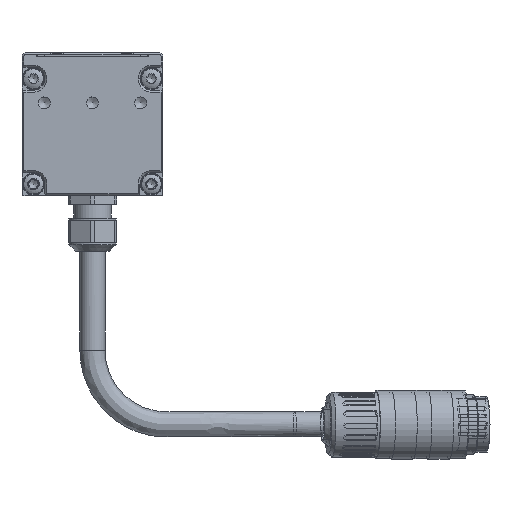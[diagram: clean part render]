
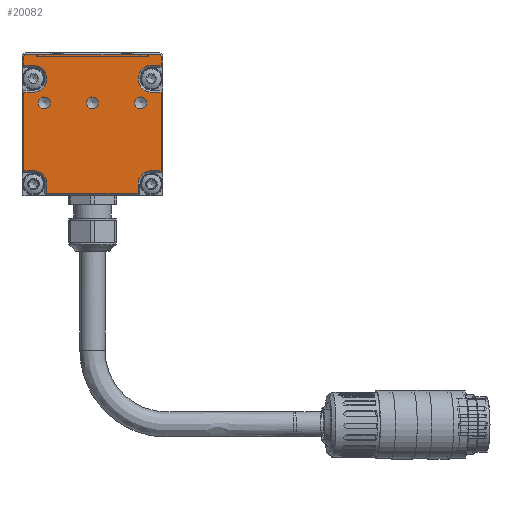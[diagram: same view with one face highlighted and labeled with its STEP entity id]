
A CAD part, left-side view. The second image highlights one B-rep face of the part: STEP entity #20082.
In plain terms, the highlighted planar face has unit normal (-1, 0, 0).
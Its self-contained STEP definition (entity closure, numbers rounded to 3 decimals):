
#880=LINE('',#27913,#1882);
#882=LINE('',#27917,#1884);
#886=LINE('',#27925,#1888);
#889=LINE('',#27931,#1891);
#891=LINE('',#27936,#1893);
#895=LINE('',#27944,#1897);
#897=LINE('',#27948,#1899);
#901=LINE('',#27957,#1903);
#903=LINE('',#27962,#1905);
#906=LINE('',#27970,#1908);
#909=LINE('',#27976,#1911);
#912=LINE('',#27984,#1914);
#916=LINE('',#27992,#1918);
#919=LINE('',#27999,#1921);
#1882=VECTOR('',#23214,1000.);
#1884=VECTOR('',#23218,1000.);
#1888=VECTOR('',#23224,1000.);
#1891=VECTOR('',#23229,1000.);
#1893=VECTOR('',#23235,1000.);
#1897=VECTOR('',#23241,1000.);
#1899=VECTOR('',#23247,1000.);
#1903=VECTOR('',#23257,1000.);
#1905=VECTOR('',#23265,1000.);
#1908=VECTOR('',#23274,1000.);
#1911=VECTOR('',#23283,1000.);
#1914=VECTOR('',#23292,1000.);
#1918=VECTOR('',#23302,1000.);
#1921=VECTOR('',#23311,1000.);
#2682=PLANE('',#21147);
#3923=ORIENTED_EDGE('',*,*,#7674,.T.);
#3924=ORIENTED_EDGE('',*,*,#7675,.T.);
#3925=ORIENTED_EDGE('',*,*,#7676,.T.);
#3926=ORIENTED_EDGE('',*,*,#7648,.T.);
#3927=ORIENTED_EDGE('',*,*,#7645,.T.);
#3928=ORIENTED_EDGE('',*,*,#7639,.T.);
#3929=ORIENTED_EDGE('',*,*,#7656,.T.);
#3930=ORIENTED_EDGE('',*,*,#7654,.T.);
#3931=ORIENTED_EDGE('',*,*,#7652,.T.);
#3932=ORIENTED_EDGE('',*,*,#7630,.T.);
#3933=ORIENTED_EDGE('',*,*,#7663,.T.);
#3934=ORIENTED_EDGE('',*,*,#7661,.T.);
#3935=ORIENTED_EDGE('',*,*,#7659,.T.);
#3936=ORIENTED_EDGE('',*,*,#7628,.T.);
#3937=ORIENTED_EDGE('',*,*,#7673,.F.);
#3938=ORIENTED_EDGE('',*,*,#7643,.T.);
#3939=ORIENTED_EDGE('',*,*,#7672,.F.);
#3940=ORIENTED_EDGE('',*,*,#7637,.T.);
#3941=ORIENTED_EDGE('',*,*,#7671,.T.);
#3942=ORIENTED_EDGE('',*,*,#7669,.T.);
#3943=ORIENTED_EDGE('',*,*,#7667,.T.);
#3944=ORIENTED_EDGE('',*,*,#7634,.T.);
#3945=ORIENTED_EDGE('',*,*,#7650,.T.);
#7628=EDGE_CURVE('',#9566,#9567,#880,.T.);
#7630=EDGE_CURVE('',#9569,#9568,#882,.T.);
#7634=EDGE_CURVE('',#9570,#9571,#886,.T.);
#7637=EDGE_CURVE('',#9572,#9573,#889,.T.);
#7639=EDGE_CURVE('',#9575,#9574,#891,.T.);
#7643=EDGE_CURVE('',#9576,#9577,#895,.T.);
#7645=EDGE_CURVE('',#9578,#9575,#897,.T.);
#7648=EDGE_CURVE('',#9579,#9578,#10697,.T.);
#7650=EDGE_CURVE('',#9571,#9579,#901,.T.);
#7652=EDGE_CURVE('',#9580,#9569,#903,.T.);
#7654=EDGE_CURVE('',#9581,#9580,#10698,.T.);
#7656=EDGE_CURVE('',#9574,#9581,#906,.T.);
#7659=EDGE_CURVE('',#9582,#9566,#909,.T.);
#7661=EDGE_CURVE('',#9583,#9582,#10699,.T.);
#7663=EDGE_CURVE('',#9568,#9583,#912,.T.);
#7667=EDGE_CURVE('',#9584,#9570,#916,.T.);
#7669=EDGE_CURVE('',#9585,#9584,#10700,.T.);
#7671=EDGE_CURVE('',#9573,#9585,#919,.T.);
#7672=EDGE_CURVE('',#9572,#9577,#10701,.T.);
#7673=EDGE_CURVE('',#9576,#9567,#10702,.T.);
#7674=EDGE_CURVE('',#9586,#9586,#10703,.T.);
#7675=EDGE_CURVE('',#9587,#9587,#10704,.T.);
#7676=EDGE_CURVE('',#9588,#9588,#10705,.T.);
#9566=VERTEX_POINT('',#27910);
#9567=VERTEX_POINT('',#27912);
#9568=VERTEX_POINT('',#27916);
#9569=VERTEX_POINT('',#27918);
#9570=VERTEX_POINT('',#27922);
#9571=VERTEX_POINT('',#27924);
#9572=VERTEX_POINT('',#27928);
#9573=VERTEX_POINT('',#27930);
#9574=VERTEX_POINT('',#27935);
#9575=VERTEX_POINT('',#27937);
#9576=VERTEX_POINT('',#27941);
#9577=VERTEX_POINT('',#27943);
#9578=VERTEX_POINT('',#27949);
#9579=VERTEX_POINT('',#27953);
#9580=VERTEX_POINT('',#27963);
#9581=VERTEX_POINT('',#27967);
#9582=VERTEX_POINT('',#27977);
#9583=VERTEX_POINT('',#27981);
#9584=VERTEX_POINT('',#27991);
#9585=VERTEX_POINT('',#27995);
#9586=VERTEX_POINT('',#28007);
#9587=VERTEX_POINT('',#28009);
#9588=VERTEX_POINT('',#28011);
#10697=CIRCLE('',#21122,3.6);
#10698=CIRCLE('',#21128,3.6);
#10699=CIRCLE('',#21134,3.6);
#10700=CIRCLE('',#21140,3.6);
#10701=CIRCLE('',#21144,0.5);
#10702=CIRCLE('',#21146,0.5);
#10703=CIRCLE('',#21148,1.621);
#10704=CIRCLE('',#21149,1.621);
#10705=CIRCLE('',#21150,1.621);
#11388=EDGE_LOOP('',(#3923));
#11389=EDGE_LOOP('',(#3924));
#11390=EDGE_LOOP('',(#3925));
#11391=EDGE_LOOP('',(#3926,#3927,#3928,#3929,#3930,#3931,#3932,#3933,#3934,
#3935,#3936,#3937,#3938,#3939,#3940,#3941,#3942,#3943,#3944,#3945));
#12478=FACE_BOUND('',#11388,.T.);
#12479=FACE_BOUND('',#11389,.T.);
#12480=FACE_BOUND('',#11390,.T.);
#12481=FACE_BOUND('',#11391,.T.);
#20082=ADVANCED_FACE('',(#12478,#12479,#12480,#12481),#2682,.F.);
#21122=AXIS2_PLACEMENT_3D('',#27954,#23252,#23253);
#21128=AXIS2_PLACEMENT_3D('',#27966,#23269,#23270);
#21134=AXIS2_PLACEMENT_3D('',#27980,#23287,#23288);
#21140=AXIS2_PLACEMENT_3D('',#27996,#23306,#23307);
#21144=AXIS2_PLACEMENT_3D('',#28002,#23316,#23317);
#21146=AXIS2_PLACEMENT_3D('',#28004,#23320,#23321);
#21147=AXIS2_PLACEMENT_3D('',#28005,#23322,#23323);
#21148=AXIS2_PLACEMENT_3D('',#28006,#23324,#23325);
#21149=AXIS2_PLACEMENT_3D('',#28008,#23326,#23327);
#21150=AXIS2_PLACEMENT_3D('',#28010,#23328,#23329);
#23214=DIRECTION('',(0.,0.,1.));
#23218=DIRECTION('',(0.,0.,1.));
#23224=DIRECTION('',(0.,0.,-1.));
#23229=DIRECTION('',(0.,0.,-1.));
#23235=DIRECTION('',(0.,-1.,0.));
#23241=DIRECTION('',(0.,1.,0.));
#23247=DIRECTION('',(0.,0.,-1.));
#23252=DIRECTION('',(1.,0.,0.));
#23253=DIRECTION('',(0.,1.,0.));
#23257=DIRECTION('',(0.,-1.,0.));
#23265=DIRECTION('',(0.,-1.,0.));
#23269=DIRECTION('',(1.,0.,0.));
#23270=DIRECTION('',(0.,1.,0.));
#23274=DIRECTION('',(0.,0.,1.));
#23283=DIRECTION('',(0.,-1.,0.));
#23287=DIRECTION('',(1.,0.,0.));
#23288=DIRECTION('',(0.,1.,0.));
#23292=DIRECTION('',(0.,1.,0.));
#23302=DIRECTION('',(0.,1.,0.));
#23306=DIRECTION('',(1.,0.,0.));
#23307=DIRECTION('',(0.,1.,0.));
#23311=DIRECTION('',(0.,-1.,0.));
#23316=DIRECTION('',(1.,0.,0.));
#23317=DIRECTION('',(0.,1.,0.));
#23320=DIRECTION('',(1.,0.,0.));
#23321=DIRECTION('',(0.,1.,0.));
#23322=DIRECTION('',(1.,0.,0.));
#23323=DIRECTION('',(0.,1.,0.));
#23324=DIRECTION('',(1.,0.,0.));
#23325=DIRECTION('',(0.,-1.,0.));
#23326=DIRECTION('',(1.,0.,0.));
#23327=DIRECTION('',(0.,-1.,0.));
#23328=DIRECTION('',(1.,0.,0.));
#23329=DIRECTION('',(0.,-1.,0.));
#27910=CARTESIAN_POINT('',(-1614.998,-18.5,35.119));
#27912=CARTESIAN_POINT('',(-1614.998,-18.5,37.519));
#27913=CARTESIAN_POINT('',(-1614.998,-18.5,0.019));
#27916=CARTESIAN_POINT('',(-1614.998,-18.5,27.919));
#27917=CARTESIAN_POINT('',(-1614.998,-18.5,0.019));
#27918=CARTESIAN_POINT('',(-1614.998,-18.5,6.719));
#27922=CARTESIAN_POINT('',(-1614.998,18.5,27.919));
#27924=CARTESIAN_POINT('',(-1614.998,18.5,6.719));
#27925=CARTESIAN_POINT('',(-1614.998,18.5,0.019));
#27928=CARTESIAN_POINT('',(-1614.998,18.5,37.519));
#27930=CARTESIAN_POINT('',(-1614.998,18.5,35.119));
#27931=CARTESIAN_POINT('',(-1614.998,18.5,0.019));
#27935=CARTESIAN_POINT('',(-1614.998,-12.3,0.519));
#27936=CARTESIAN_POINT('',(-1614.998,-12.3,0.519));
#27937=CARTESIAN_POINT('',(-1614.998,12.3,0.519));
#27941=CARTESIAN_POINT('',(-1614.998,-18.,38.019));
#27943=CARTESIAN_POINT('',(-1614.998,18.,38.019));
#27944=CARTESIAN_POINT('',(-1614.998,-19.,38.019));
#27948=CARTESIAN_POINT('',(-1614.998,12.3,0.019));
#27949=CARTESIAN_POINT('',(-1614.998,12.3,3.119));
#27953=CARTESIAN_POINT('',(-1614.998,15.9,6.719));
#27954=CARTESIAN_POINT('',(-1614.998,15.9,3.119));
#27957=CARTESIAN_POINT('',(-1614.998,-19.,6.719));
#27962=CARTESIAN_POINT('',(-1614.998,-19.,6.719));
#27963=CARTESIAN_POINT('',(-1614.998,-15.9,6.719));
#27966=CARTESIAN_POINT('',(-1614.998,-15.9,3.119));
#27967=CARTESIAN_POINT('',(-1614.998,-12.3,3.119));
#27970=CARTESIAN_POINT('',(-1614.998,-12.3,0.019));
#27976=CARTESIAN_POINT('',(-1614.998,-19.,35.119));
#27977=CARTESIAN_POINT('',(-1614.998,-15.9,35.119));
#27980=CARTESIAN_POINT('',(-1614.998,-15.9,31.519));
#27981=CARTESIAN_POINT('',(-1614.998,-15.9,27.919));
#27984=CARTESIAN_POINT('',(-1614.998,-19.,27.919));
#27991=CARTESIAN_POINT('',(-1614.998,15.9,27.919));
#27992=CARTESIAN_POINT('',(-1614.998,-19.,27.919));
#27995=CARTESIAN_POINT('',(-1614.998,15.9,35.119));
#27996=CARTESIAN_POINT('',(-1614.998,15.9,31.519));
#27999=CARTESIAN_POINT('',(-1614.998,-19.,35.119));
#28002=CARTESIAN_POINT('',(-1614.998,18.,37.519));
#28004=CARTESIAN_POINT('',(-1614.998,-18.,37.519));
#28005=CARTESIAN_POINT('',(-1614.998,-19.,0.019));
#28006=CARTESIAN_POINT('',(-1614.998,13.,25.019));
#28007=CARTESIAN_POINT('',(-1614.998,11.379,25.019));
#28008=CARTESIAN_POINT('',(-1614.998,0.,25.019));
#28009=CARTESIAN_POINT('',(-1614.998,-1.621,25.019));
#28010=CARTESIAN_POINT('',(-1614.998,-13.,25.019));
#28011=CARTESIAN_POINT('',(-1614.998,-14.621,25.019));
